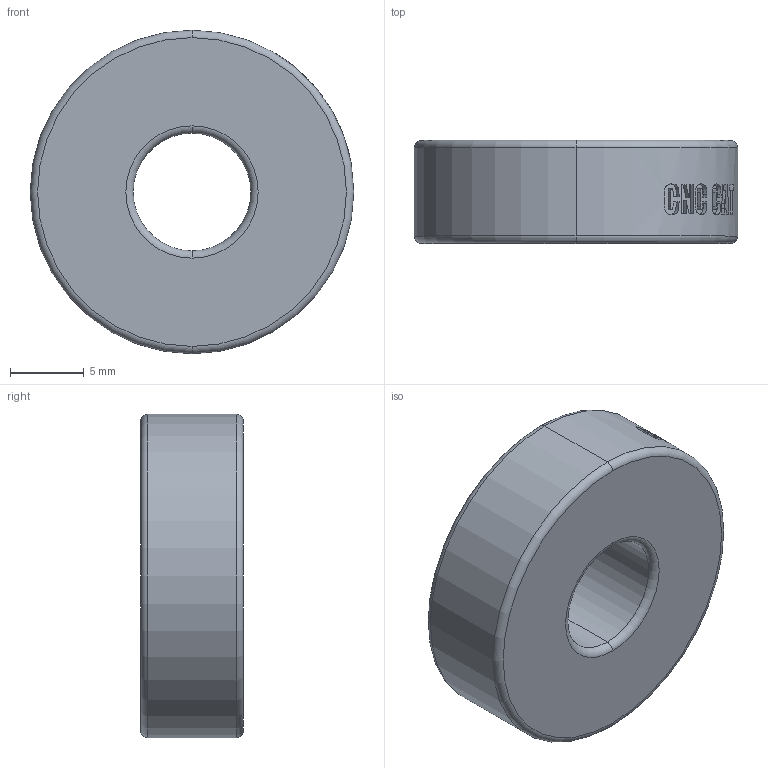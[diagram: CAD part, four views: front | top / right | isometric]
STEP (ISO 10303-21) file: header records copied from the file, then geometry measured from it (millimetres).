
FILE_DESCRIPTION (( 'STEP AP203' ), '1' );
FILE_NAME ('8X22X7.STEP', '2017-08-13T07:40:32', ( '' ), ( '' ), 'SwSTEP 2.0', 'SolidWorks 2014', '' );
FILE_SCHEMA (( 'CONFIG_CONTROL_DESIGN' ));
Length unit declared in the file: millimetre
Products named in the file (1): 8X22X7
Bounding box: 22 x 7 x 22 mm (x, y, z)
Volume: 2295.5 mm3; surface area: 1294.1 mm2
Topology: 1 solids, 1 shells, 98 faces, 259 edges, 170 vertices
Faces by surface type: plane 47, bspline 32, cylinder 11, torus 8
Entity records: 6638 total; most frequent: CARTESIAN_POINT 4390, ORIENTED_EDGE 518, DIRECTION 340, EDGE_CURVE 259, VERTEX_POINT 170, AXIS2_PLACEMENT_3D 129, B_SPLINE_CURVE_WITH_KNOTS 115, EDGE_LOOP 107
